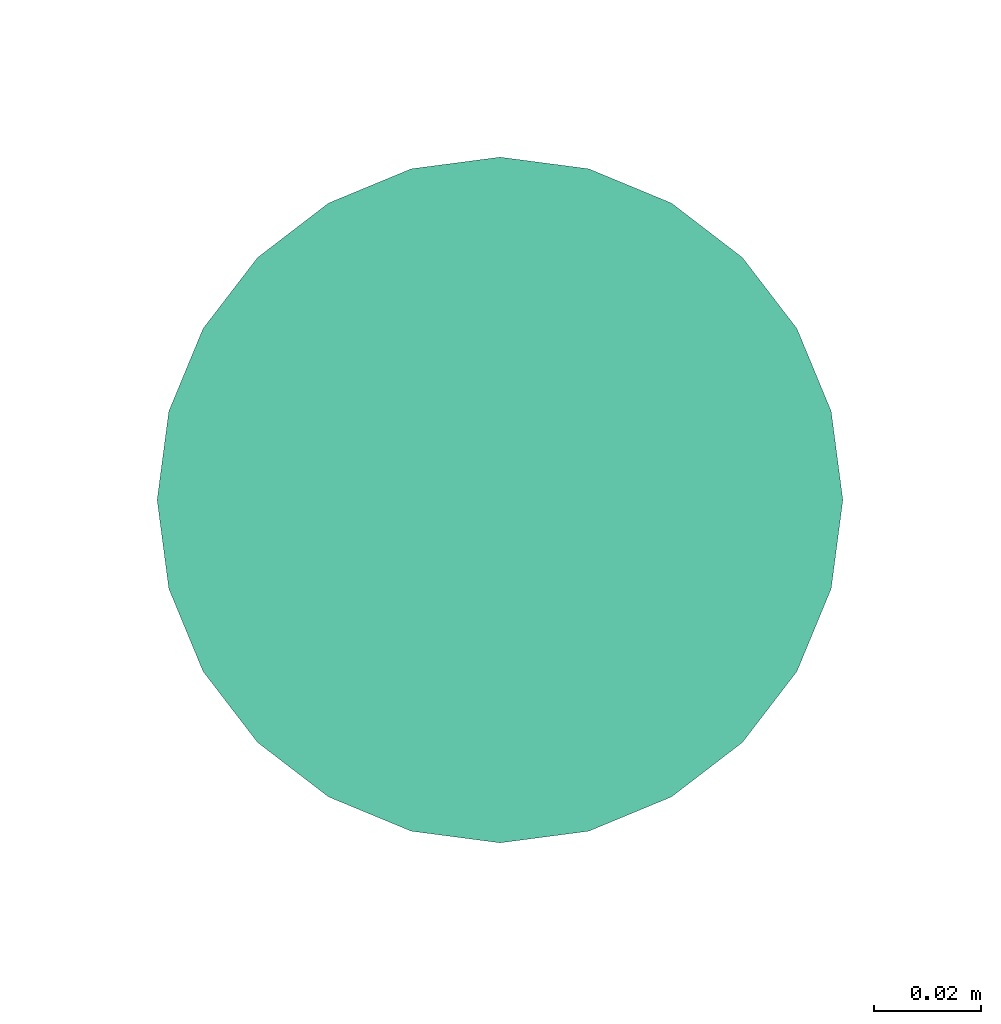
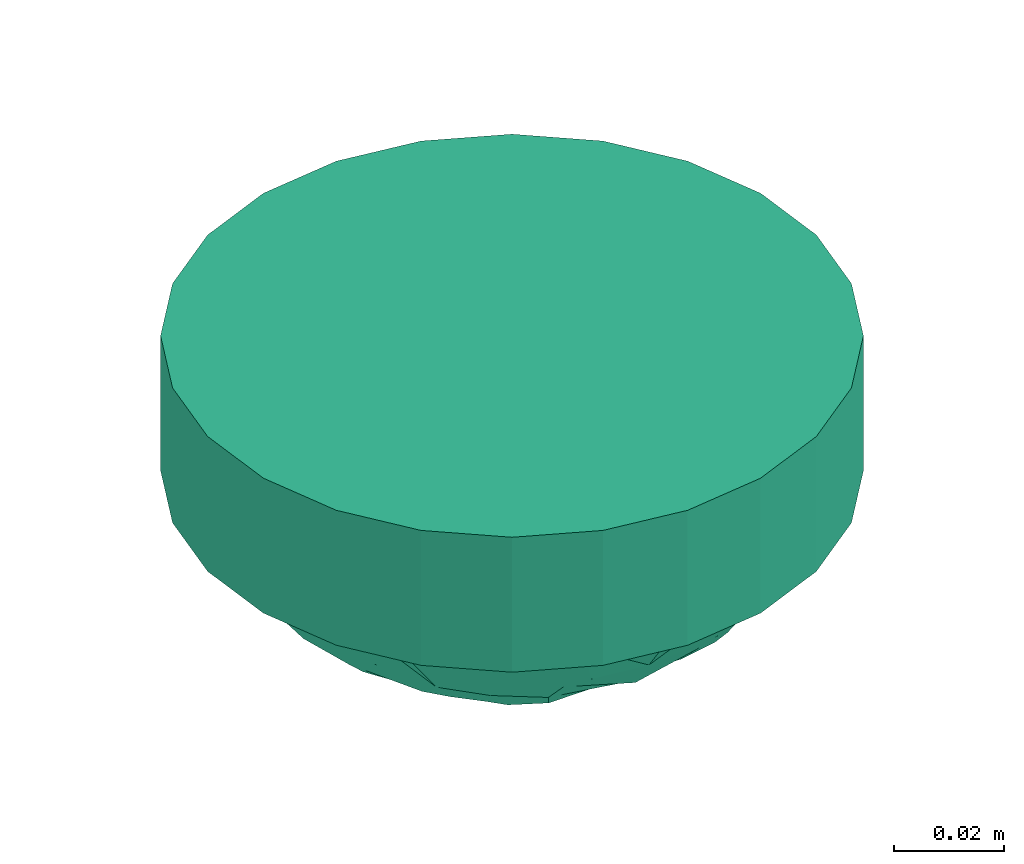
# One storey, part 61 of 146: 1 flow terminal.
"""IFC2X3 building model written with IfcOpenShell, lengths in metres."""

import ifcopenshell
import ifcopenshell.guid

model = None  # the IFC model being written
_history = None  # IfcOwnerHistory: only IFC2X3 demands one
_inside = {}  # id of a spatial element -> (the spatial element, [elements in it])
_under = {}  # id of a project, library or spatial element -> (it, [spatial elements below it])
_declared = {}  # id of a project -> (the project, [libraries it declares])
_typed = {}  # id of a type object -> (the type object, [elements of that type])
_made_of = {}  # id of a material, layer set ... -> (it, [elements and type objects made of it])


def new_model(schema):
    """Start an empty IFC model of exactly this schema.

    Asked for "IFC4X3", IfcOpenShell would pick the latest addendum, in which some entities
    have other attributes; the version numbers below select the first issue.
    IFC2X3 requires an IfcOwnerHistory on every rooted entity: one is made here for all.
    """
    global model, _history
    if schema == "IFC4X3":
        model = ifcopenshell.file(schema_version=(4, 3, 0, 0))
    else:
        model = ifcopenshell.file(schema=schema)
    _inside.clear()
    _under.clear()
    _declared.clear()
    _typed.clear()
    _made_of.clear()
    _history = None
    if model.schema == "IFC2X3":
        org = make("IfcOrganization", Name="unknown")
        user = make(
            "IfcPersonAndOrganization",
            ThePerson=make("IfcPerson", FamilyName="unknown"),
            TheOrganization=org,
        )
        app = make(
            "IfcApplication",
            ApplicationDeveloper=org,
            Version="unknown",
            ApplicationFullName="unknown",
            ApplicationIdentifier="unknown",
        )
        _history = make(
            "IfcOwnerHistory",
            OwningUser=user,
            OwningApplication=app,
            ChangeAction="ADDED",
            CreationDate=0,
        )
    return model


def make(cls, **values):
    """One entity of the class cls with the attributes given. An attribute that is None is left unset."""
    return model.create_entity(
        cls, **{name: value for name, value in values.items() if value is not None}
    )


def entity(cls, *values):
    """Any entity or typed value of the class cls, its attributes in the order of the schema. None: left unset."""
    e = model.create_entity(cls)
    for i, value in enumerate(values):
        if value is not None:
            e[i] = value
    return e


def rooted(cls, **values):
    """An entity with a GlobalId (a new one), such as an element, a storey or a relation."""
    return make(cls, GlobalId=ifcopenshell.guid.new(), OwnerHistory=_history, **values)


def si_unit(unit_type, name, prefix=None):
    """IfcSIUnit, for example si_unit("LENGTHUNIT", "METRE", prefix="MILLI")."""
    return make("IfcSIUnit", UnitType=unit_type, Prefix=prefix, Name=name)


def converted_unit(unit_type, name, factor, base, dimensions=None, offset=None):
    """IfcConversionBasedUnit, such as the inch: factor (a typed value) times the base unit."""
    return make(
        "IfcConversionBasedUnit"
        if offset is None
        else "IfcConversionBasedUnitWithOffset",
        ConversionOffset=offset,
        Dimensions=None
        if dimensions is None
        else entity("IfcDimensionalExponents", *dimensions),
        UnitType=unit_type,
        Name=name,
        ConversionFactor=make(
            "IfcMeasureWithUnit", ValueComponent=factor, UnitComponent=base
        ),
    )


def derived_unit(unit_type, elements):
    """IfcDerivedUnit: a product of units, each with its exponent."""
    return make(
        "IfcDerivedUnit",
        Elements=[
            make("IfcDerivedUnitElement", Unit=unit, Exponent=power)
            for unit, power in elements
        ],
        UnitType=unit_type,
    )


def assignment(units):
    """IfcUnitAssignment: the units of a project."""
    return None if units is None else make("IfcUnitAssignment", Units=units)


def point(xyz):
    """IfcCartesianPoint."""
    return None if xyz is None else make("IfcCartesianPoint", Coordinates=xyz)


def direction(xyz):
    """IfcDirection."""
    return None if xyz is None else make("IfcDirection", DirectionRatios=xyz)


def frame(location, z_axis=None, x_axis=None):
    """IfcAxis2Placement3D, a coordinate frame: its origin and axes. An axis left out is left unset."""
    return make(
        "IfcAxis2Placement3D",
        Location=point(location),
        Axis=direction(z_axis),
        RefDirection=direction(x_axis),
    )


def origin():
    """The frame at (0, 0, 0) with its axes left unset."""
    return frame((0.0, 0.0, 0.0))


def place(relative_to, where):
    """IfcLocalPlacement: puts the frame where relative to a parent placement (None: the world)."""
    return make(
        "IfcLocalPlacement", PlacementRelTo=relative_to, RelativePlacement=where
    )


def context(
    kind, dimensions, precision=None, world=None, true_north=None, identifier=None
):
    """IfcGeometricRepresentationContext, for example the 3D "Model" context."""
    return make(
        "IfcGeometricRepresentationContext",
        ContextIdentifier=identifier,
        ContextType=kind,
        CoordinateSpaceDimension=dimensions,
        Precision=precision,
        WorldCoordinateSystem=world,
        TrueNorth=true_north,
    )


def subcontext(parent, identifier, kind, view, scale=None):
    """IfcGeometricRepresentationSubContext, for example "Body" below "Model"."""
    return make(
        "IfcGeometricRepresentationSubContext",
        ContextIdentifier=identifier,
        ContextType=kind,
        ParentContext=parent,
        TargetScale=scale,
        TargetView=view,
    )


def project(units=None, contexts=None):
    """IfcProject with its units and contexts."""
    return rooted(
        "IfcProject",
        Name="project",
        RepresentationContexts=contexts,
        UnitsInContext=assignment(units),
    )


def spatial(cls, under=None, at=None, **own):
    """A site, building, storey or space (cls), placed at a placement, below another one or the project."""
    s = rooted(cls, ObjectPlacement=at, **own)
    if under is not None:
        _under.setdefault(under.id(), (under, []))[1].append(s)
    return s


def faces_of(points, faces, orient=None, outer=None):
    """IfcFace entities. A face is a list of loops; a loop is a list of indices into points, from 0.

    orient and outer hold one flag for each loop. By default every Orientation is true, the
    first loop of a face is its IfcFaceOuterBound and the others are IfcFaceBound.
    """
    made = []
    for i, loops in enumerate(faces):
        bounds = []
        for j, loop in enumerate(loops):
            is_outer = j == 0 if outer is None else outer[i][j]
            bounds.append(
                make(
                    "IfcFaceOuterBound" if is_outer else "IfcFaceBound",
                    Bound=make("IfcPolyLoop", Polygon=[points[k] for k in loop]),
                    Orientation=True if orient is None else orient[i][j],
                )
            )
        made.append(make("IfcFace", Bounds=bounds))
    return made


def faceted_brep(points, faces, orient=None, outer=None, voids=None):
    """IfcFacetedBrep: a solid bounded by flat faces; with voids (closed shells), ...WithVoids."""
    shared = [point(p) for p in points]
    hull = make("IfcClosedShell", CfsFaces=faces_of(shared, faces, orient, outer))
    if voids is None:
        return make("IfcFacetedBrep", Outer=hull)
    return make(
        "IfcFacetedBrepWithVoids",
        Outer=hull,
        Voids=[
            make(cls, CfsFaces=faces_of(shared, fs, o, b)) for cls, fs, o, b in voids
        ],
    )


def shape(context_of_items, identifier, shape_type, items):
    """IfcShapeRepresentation: the items that make up one representation, for example the "Body"."""
    return make(
        "IfcShapeRepresentation",
        ContextOfItems=context_of_items,
        RepresentationIdentifier=identifier,
        RepresentationType=shape_type,
        Items=items,
    )


def source(mapping_origin, context_of_items, identifier, shape_type, items):
    """IfcRepresentationMap: a shape defined once, which mapped items show again and again."""
    return make(
        "IfcRepresentationMap",
        MappingOrigin=mapping_origin,
        MappedRepresentation=shape(context_of_items, identifier, shape_type, items),
    )


def transform(
    local_origin,
    x_axis=None,
    y_axis=None,
    z_axis=None,
    scale=None,
    scale2=None,
    scale3=None,
    uniform=True,
):
    """IfcCartesianTransformationOperator3D, or its non-uniform kind. x_axis, y_axis, z_axis: its Axis1, 2, 3."""
    if uniform:
        return make(
            "IfcCartesianTransformationOperator3D",
            Axis1=direction(x_axis),
            Axis2=direction(y_axis),
            LocalOrigin=point(local_origin),
            Scale=scale,
            Axis3=direction(z_axis),
        )
    return make(
        "IfcCartesianTransformationOperator3DnonUniform",
        Axis1=direction(x_axis),
        Axis2=direction(y_axis),
        LocalOrigin=point(local_origin),
        Scale=scale,
        Axis3=direction(z_axis),
        Scale2=scale2,
        Scale3=scale3,
    )


def mapped(mapping_source, mapping_target):
    """IfcMappedItem: shows the shape of a source again, moved by a transform."""
    return make(
        "IfcMappedItem", MappingSource=mapping_source, MappingTarget=mapping_target
    )


def made_of(thing, what):
    """Note that an element or type object is made of a material, layer set ...; save() writes the relation."""
    if what is not None:
        _made_of.setdefault(what.id(), (what, []))[1].append(thing)
    return thing


def type_object(cls, material=None, **own):
    """A type object (cls), such as IfcWallType, which elements share."""
    return made_of(rooted(cls, **own), material)


def type_shapes(of_type, sources):
    """Give a type object the sources (RepresentationMaps) that its elements show as mapped items."""
    of_type.RepresentationMaps = sources


def element(
    cls,
    number,
    at=None,
    inside=None,
    cuts=None,
    type_object=None,
    material=None,
    context=None,
    identifier="Body",
    shape_type=None,
    held_by="IfcProductDefinitionShape",
    body=None,
    shapes=None,
    **own,
):
    """One element of the class cls, such as IfcWall. Its Tag is "e" and its number.

    at: its placement. inside: the storey or other place that contains it. cuts: it is an
    opening in that element (IfcRelVoidsElement). A single representation is given by context,
    identifier, shape_type and body (its items); several are given by shapes. held_by: the class
    of the entity that holds the representations. save() writes the other relations.
    """
    e = rooted(cls, Tag="e%d" % number, ObjectPlacement=at, **own)
    if body is not None:
        shapes = [shape(context, identifier, shape_type, body)]
    if shapes is not None:
        e.Representation = make(held_by, Representations=shapes)
    if inside is not None:
        _inside.setdefault(inside.id(), (inside, []))[1].append(e)
    if cuts is not None:
        rooted(
            "IfcRelVoidsElement", RelatingBuildingElement=cuts, RelatedOpeningElement=e
        )
    if type_object is not None:
        _typed.setdefault(type_object.id(), (type_object, []))[1].append(e)
    return made_of(e, material)


def aggregate(whole, parts):
    """IfcRelAggregates: a whole, such as a stair, and the parts it consists of."""
    return rooted("IfcRelAggregates", RelatingObject=whole, RelatedObjects=parts)


def save(model, path):
    """Write the relations noted so far, then the file.

    IfcRelAggregates (storeys below a building ...), IfcRelContainedInSpatialStructure (elements
    in a storey), IfcRelDefinesByType, IfcRelAssociatesMaterial and IfcRelDeclares: one each for
    every whole, place, type object, material and project.
    """
    for whole, parts in _under.values():
        aggregate(whole, parts)
    for where, things in _inside.values():
        rooted(
            "IfcRelContainedInSpatialStructure",
            RelatedElements=things,
            RelatingStructure=where,
        )
    for kind, things in _typed.values():
        rooted("IfcRelDefinesByType", RelatedObjects=things, RelatingType=kind)
    for what, things in _made_of.values():
        rooted("IfcRelAssociatesMaterial", RelatedObjects=things, RelatingMaterial=what)
    for by, libraries in _declared.values():
        rooted("IfcRelDeclares", RelatingContext=by, RelatedDefinitions=libraries)
    model.write(path)


model = new_model("IFC2X3")

# Units and contexts
model_context = context("Model", 3, precision=1e-05, world=origin(), true_north=direction((6.12303176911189e-17, 1.0)))
body_context = subcontext(model_context, "Body", "Model", "MODEL_VIEW")
ifc_project = project(units=[si_unit("LENGTHUNIT", "METRE"), si_unit("AREAUNIT", "SQUARE_METRE"), si_unit("VOLUMEUNIT", "CUBIC_METRE"), converted_unit("PLANEANGLEUNIT", "DEGREE", entity("IfcRatioMeasure", 0.0174532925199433), si_unit("PLANEANGLEUNIT", "RADIAN"), dimensions=[0, 0, 0, 0, 0, 0, 0]), si_unit("MASSUNIT", "GRAM", prefix="KILO"), derived_unit("MASSDENSITYUNIT", [(si_unit("MASSUNIT", "GRAM", prefix="KILO"), 1), (si_unit("LENGTHUNIT", "METRE"), -3)]), si_unit("TIMEUNIT", "SECOND"), si_unit("FREQUENCYUNIT", "HERTZ"), si_unit("THERMODYNAMICTEMPERATUREUNIT", "DEGREE_CELSIUS"), derived_unit("THERMALTRANSMITTANCEUNIT", [(si_unit("MASSUNIT", "GRAM", prefix="KILO"), 1), (si_unit("THERMODYNAMICTEMPERATUREUNIT", "KELVIN"), -1), (si_unit("TIMEUNIT", "SECOND"), -3)]), derived_unit("VOLUMETRICFLOWRATEUNIT", [(si_unit("LENGTHUNIT", "METRE"), 3), (si_unit("TIMEUNIT", "SECOND"), -1)]), si_unit("ELECTRICCURRENTUNIT", "AMPERE"), si_unit("ELECTRICVOLTAGEUNIT", "VOLT"), si_unit("POWERUNIT", "WATT"), si_unit("FORCEUNIT", "NEWTON"), si_unit("ILLUMINANCEUNIT", "LUX"), si_unit("LUMINOUSFLUXUNIT", "LUMEN"), si_unit("LUMINOUSINTENSITYUNIT", "CANDELA"), derived_unit("USERDEFINED", [(si_unit("MASSUNIT", "GRAM", prefix="KILO"), -1), (si_unit("LENGTHUNIT", "METRE"), -2), (si_unit("TIMEUNIT", "SECOND"), 3), (si_unit("LUMINOUSFLUXUNIT", "LUMEN"), 1)]), derived_unit("LINEARVELOCITYUNIT", [(si_unit("LENGTHUNIT", "METRE"), 1), (si_unit("TIMEUNIT", "SECOND"), -1)]), si_unit("PRESSUREUNIT", "PASCAL"), derived_unit("USERDEFINED", [(si_unit("LENGTHUNIT", "METRE"), -2), (si_unit("MASSUNIT", "GRAM", prefix="KILO"), 1), (si_unit("TIMEUNIT", "SECOND"), -2)])], contexts=[model_context])

# Site, building, storey
site_placement = place(None, origin())
site = spatial("IfcSite", under=ifc_project, at=site_placement, Name="Default", CompositionType="ELEMENT")
building_placement = place(site_placement, origin())
building = spatial("IfcBuilding", under=site, at=building_placement, CompositionType="ELEMENT")
storey_placement = place(building_placement, origin())
storey = spatial("IfcBuildingStorey", under=building, at=storey_placement, Name="S01", CompositionType="ELEMENT", Elevation=0.0)

# Flow terminal
light_fixture_type = type_object("IfcLightFixtureType", Name="Détecteur 360°", PredefinedType="NOTDEFINED")
shared_shape = source(origin(), body_context, "Body", "Brep", [
    faceted_brep([(0.0, -0.0397165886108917, 0.0531256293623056), (0.0, -0.034524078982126, 0.0563702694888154), (-0.0175153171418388, -0.0435914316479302, 0.0478512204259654), (-0.0194029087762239, -0.000878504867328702, 0.0644483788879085), (0.0, 0.0, 0.0669999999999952), (0.0, 0.00603476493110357, 0.0659648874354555), (-0.0174057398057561, -0.0159851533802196, 0.0630502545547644), (-0.0366619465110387, -0.0127227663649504, 0.0549213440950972), (-0.026998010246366, -0.0195753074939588, 0.0584711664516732), (-0.0202403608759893, -0.0335607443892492, 0.054639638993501), (-0.0359767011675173, -0.0348394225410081, 0.0444249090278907), (-0.0276843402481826, -0.0401006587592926, 0.0459804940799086), (-0.0133088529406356, -0.0517577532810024, 0.0400582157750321), (-0.0172617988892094, -0.0486391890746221, 0.042533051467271), (-0.0256912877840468, -0.0533485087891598, 0.0299999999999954), (-0.0462941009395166, -0.0369183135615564, 0.0299999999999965), (0.0, -0.0241390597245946, 0.0628595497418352), (-0.0186245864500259, -0.0267295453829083, 0.0589100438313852), (-0.0139070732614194, -0.0374370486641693, 0.0540817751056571), (0.0, 0.0449090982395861, 0.049880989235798), (-0.0172618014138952, 0.0486391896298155, 0.0425330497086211), (0.0, 0.0397165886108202, 0.0531256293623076), (-0.0186245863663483, 0.0267295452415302, 0.0589100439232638), (-0.0202403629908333, 0.0335607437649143, 0.054639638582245), (-0.0353547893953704, 0.0284533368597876, 0.0494330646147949), (0.0, 0.0120695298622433, 0.0649297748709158), (-0.0249385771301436, 0.0204731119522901, 0.0590841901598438), (-0.0191783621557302, 0.0150189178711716, 0.062775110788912), (-0.0465404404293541, -0.0196510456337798, 0.0438984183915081), (-0.052010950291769, -0.0250471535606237, 0.029999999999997), (-0.0453471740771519, -0.0286501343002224, 0.0397747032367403), (-0.0365036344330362, -0.0226255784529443, 0.0516441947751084), (-0.0175153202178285, 0.0435914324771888, 0.0478512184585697), (-0.0359926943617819, 0.0451334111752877, 0.0299999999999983), (-0.0276843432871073, 0.0401006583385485, 0.0459804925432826), (-0.00849704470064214, -0.0572729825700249, 0.0299999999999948), (0.0, -0.0592123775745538, 0.0299999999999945), (0.0, -0.0545512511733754, 0.0364787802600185), (0.0, -0.049890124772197, 0.0429575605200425), (-0.0169940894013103, -0.055333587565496, 0.0299999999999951), (-0.0359767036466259, 0.0348394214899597, 0.0444249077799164), (-0.025691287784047, 0.0533485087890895, 0.0299999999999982), (-0.0308419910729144, 0.0492409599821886, 0.0299999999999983), (-0.0130265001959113, 0.0514867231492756, 0.040526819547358), (-0.0169940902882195, 0.0553335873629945, 0.029999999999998), (0.0, 0.0498901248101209, 0.0429575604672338), (-0.0353547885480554, -0.0284533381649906, 0.0494330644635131), (0.0, 0.0181042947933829, 0.0638946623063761), (-0.0473669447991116, -0.00128092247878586, 0.0474310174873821), (-0.0485435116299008, -0.00908961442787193, 0.0452357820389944), (-0.0366597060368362, -0.0032867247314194, 0.0563153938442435), (-0.0226425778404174, -0.0107553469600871, 0.0624973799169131), (0.0, -0.00603476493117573, 0.0659648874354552), (0.0, 0.0293315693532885, 0.0596149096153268), (-0.0139070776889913, 0.0374370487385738, 0.0540817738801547), (-0.0449600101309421, 0.018422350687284, 0.0461366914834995), (-0.0453471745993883, 0.0286501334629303, 0.0397747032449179), (-0.0476906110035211, 0.00670602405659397, 0.0466053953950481), (-0.0577277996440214, 0.0131759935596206, 0.0299999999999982), (-0.0577277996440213, 0.00658799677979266, 0.029999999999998), (-0.0577277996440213, 0.0, 0.0299999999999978), (0.0, -0.0449090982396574, 0.0498809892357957), (-0.0308419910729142, -0.049240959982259, 0.0299999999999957), (-0.0359926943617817, -0.0451334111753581, 0.029999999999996), (0.0, 0.0345240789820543, 0.0563702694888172), (-0.0411433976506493, 0.0410258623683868, 0.0299999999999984), (-0.0462941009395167, 0.0369183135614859, 0.0299999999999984), (-0.0491525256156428, -0.03098273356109, 0.0299999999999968), (-0.0577277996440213, -0.0131759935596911, 0.0299999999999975), (0.0, -0.018104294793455, 0.0638946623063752), (-0.0377433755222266, 0.0044838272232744, 0.0554913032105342), (-0.0577277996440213, -0.00658799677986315, 0.0299999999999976), (-0.0385149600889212, 0.0124844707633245, 0.0536578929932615), (-0.0491525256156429, 0.0309827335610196, 0.0299999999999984), (-0.0548693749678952, 0.0191115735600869, 0.0299999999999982), (0.0, 0.0241390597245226, 0.0628595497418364), (-0.014625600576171, 0.0100436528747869, 0.0649170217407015), (-0.0271766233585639, 0.00920278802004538, 0.0609170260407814), (0.0, -0.0120695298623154, 0.0649297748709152), (-0.0520109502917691, 0.0250471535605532, 0.0299999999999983), (-0.0411433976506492, -0.0410258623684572, 0.0299999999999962), (-0.0548693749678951, -0.0191115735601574, 0.0299999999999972), (0.0, -0.0293315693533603, 0.0596149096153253), (0.0, 0.0545512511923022, 0.0364787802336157), (0.0, 0.0592123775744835, 0.0299999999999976), (-0.00849704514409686, 0.057272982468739, 0.0299999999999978), (-0.0127455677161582, 0.0563032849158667, 0.0299999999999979), (-0.0213426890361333, 0.054341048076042, 0.0299999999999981), (0.0175153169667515, 0.0435914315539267, 0.0478512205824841), (0.0194029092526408, 0.000878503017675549, 0.0644483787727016), (0.017405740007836, 0.0159851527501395, 0.0630502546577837), (0.0366619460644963, 0.012722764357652, 0.0549213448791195), (0.0269980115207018, 0.0195753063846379, 0.0584711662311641), (0.0202403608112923, 0.0335607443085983, 0.0546396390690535), (0.0359767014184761, 0.0348394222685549, 0.0444249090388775), (0.0276843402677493, 0.0401006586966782, 0.0459804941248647), (0.0133088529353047, 0.0517577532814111, 0.0400582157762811), (0.0172617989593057, 0.0486391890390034, 0.0425330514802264), (0.0256912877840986, 0.0533485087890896, 0.0299999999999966), (0.0462941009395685, 0.0369183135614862, 0.0299999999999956), (0.00849704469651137, 0.0572729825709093, 0.0299999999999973), (0.0169940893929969, 0.0553335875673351, 0.029999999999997), (0.0172617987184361, -0.0486391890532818, 0.0425330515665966), (0.025691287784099, -0.0533485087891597, 0.0299999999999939), (0.0308419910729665, -0.0492409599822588, 0.0299999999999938), (0.0175153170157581, -0.0435914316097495, 0.0478512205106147), (0.0186245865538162, -0.0267295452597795, 0.0589100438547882), (0.0202403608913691, -0.03356074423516, 0.0546396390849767), (0.0353547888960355, -0.0284533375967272, 0.0494330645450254), (0.0249385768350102, -0.0204731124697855, 0.0590841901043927), (0.0191783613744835, -0.0150189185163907, 0.062775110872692), (0.0465404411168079, 0.0196510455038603, 0.0438984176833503), (0.0577277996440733, 0.0131759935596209, 0.0299999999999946), (0.0548693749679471, 0.0191115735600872, 0.0299999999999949), (0.0520109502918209, 0.0250471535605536, 0.0299999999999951), (0.0365036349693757, 0.0226255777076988, 0.0516441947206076), (0.0186245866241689, 0.0267295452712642, 0.0589100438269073), (0.0359926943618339, -0.0451334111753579, 0.0299999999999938), (0.0276843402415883, -0.0401006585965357, 0.0459804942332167), (0.0139070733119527, 0.0374370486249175, 0.0540817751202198), (0.0359767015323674, -0.0348394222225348, 0.044424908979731), (0.0226425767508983, 0.0107553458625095, 0.0624973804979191), (0.0169940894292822, -0.0553335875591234, 0.0299999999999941), (0.0130264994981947, -0.0514867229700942, 0.0405268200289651), (0.0453471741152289, 0.0286501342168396, 0.039774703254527), (0.0353547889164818, 0.0284533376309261, 0.0494330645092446), (0.0473669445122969, 0.00128092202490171, 0.0474310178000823), (0.0485435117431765, 0.00908961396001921, 0.0452357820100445), (0.0366597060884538, 0.00328672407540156, 0.0563153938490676), (0.0139070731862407, -0.0374370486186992, 0.0540817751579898), (0.0449600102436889, -0.018422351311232, 0.0461366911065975), (0.0453471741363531, -0.0286501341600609, 0.039774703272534), (0.0476906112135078, -0.00670602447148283, 0.046605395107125), (0.0577277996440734, -0.0131759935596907, 0.0299999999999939), (0.0577277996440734, -0.00658799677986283, 0.0299999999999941), (0.0577277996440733, 0.0, 0.0299999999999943), (0.0308419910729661, 0.0492409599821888, 0.0299999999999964), (0.0359926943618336, 0.0451334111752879, 0.0299999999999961), (0.0411433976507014, -0.041025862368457, 0.0299999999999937), (0.0462941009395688, -0.0369183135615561, 0.0299999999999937), (0.0491525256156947, 0.0309827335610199, 0.0299999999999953), (0.037743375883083, -0.00448382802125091, 0.0554913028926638), (0.0577277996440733, 0.00658799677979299, 0.0299999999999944), (0.0385149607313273, -0.0124844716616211, 0.0536578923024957), (0.049152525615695, -0.0309827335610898, 0.0299999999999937), (0.0548693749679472, -0.0191115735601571, 0.0299999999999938), (0.0146256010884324, -0.0100436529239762, 0.0649170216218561), (0.0271766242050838, -0.00920278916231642, 0.0609170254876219), (0.0520109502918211, -0.0250471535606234, 0.0299999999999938), (0.041143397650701, 0.0410258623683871, 0.0299999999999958), (0.00849704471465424, -0.0572729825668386, 0.0299999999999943), (0.0127455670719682, -0.056303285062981, 0.0299999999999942), (0.0213426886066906, -0.0543410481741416, 0.029999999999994), (0.0, 0.0, 0.0299999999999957)], [[[0, 1, 2]], [[3, 4, 5]], [[6, 7, 8]], [[9, 10, 11]], [[12, 13, 14]], [[10, 15, 11]], [[9, 16, 17]], [[18, 9, 11]], [[19, 20, 21]], [[22, 23, 24]], [[25, 26, 27]], [[28, 29, 30]], [[8, 31, 17]], [[32, 33, 34]], [[35, 36, 37, 38, 39]], [[23, 40, 24]], [[20, 41, 42]], [[19, 43, 20]], [[44, 43, 45]], [[20, 32, 21]], [[30, 10, 46]], [[22, 26, 47]], [[48, 49, 50]], [[3, 51, 52]], [[53, 54, 23]], [[55, 24, 56]], [[57, 58, 59, 60]], [[13, 61, 0]], [[13, 0, 2]], [[2, 62, 13]], [[18, 2, 1]], [[2, 11, 63]], [[32, 64, 21]], [[32, 42, 33]], [[34, 33, 65, 66]], [[20, 42, 32]], [[54, 32, 34]], [[28, 30, 31]], [[10, 67, 15]], [[49, 68, 28]], [[8, 17, 69]], [[7, 6, 51]], [[28, 31, 7]], [[57, 48, 70]], [[58, 57, 55]], [[48, 71, 49]], [[70, 48, 50]], [[3, 50, 51]], [[55, 26, 24]], [[72, 57, 70]], [[26, 55, 72]], [[56, 40, 73]], [[56, 74, 55]], [[47, 75, 22]], [[52, 4, 3]], [[7, 50, 49]], [[5, 76, 3]], [[70, 3, 77]], [[51, 78, 52]], [[26, 25, 47]], [[76, 25, 27]], [[23, 22, 75]], [[26, 22, 24]], [[53, 64, 54]], [[23, 34, 40]], [[66, 40, 34]], [[40, 66, 73]], [[56, 73, 79, 74]], [[72, 27, 26]], [[40, 56, 24]], [[23, 75, 53]], [[69, 17, 16]], [[78, 6, 69]], [[46, 10, 9]], [[46, 9, 17]], [[50, 7, 51]], [[30, 29, 67]], [[80, 63, 11, 15]], [[28, 68, 81, 29]], [[10, 30, 67]], [[30, 46, 31]], [[82, 18, 1]], [[82, 16, 9]], [[28, 7, 49]], [[12, 39, 38]], [[61, 13, 12]], [[83, 84, 85, 86, 44, 45]], [[43, 41, 20]], [[44, 87, 41, 43]], [[32, 54, 64]], [[23, 54, 34]], [[9, 18, 82]], [[2, 18, 11]], [[39, 12, 14]], [[38, 61, 12]], [[62, 2, 63]], [[62, 14, 13]], [[17, 31, 46]], [[7, 31, 8]], [[48, 60, 71]], [[71, 68, 49]], [[60, 48, 57]], [[3, 70, 50]], [[72, 70, 77]], [[72, 77, 27]], [[55, 57, 72]], [[74, 58, 55]], [[76, 27, 77]], [[3, 76, 77]], [[25, 76, 5]], [[69, 6, 8]], [[78, 51, 6]], [[45, 43, 19]], [[21, 64, 88]], [[89, 4, 52]], [[90, 91, 92]], [[93, 94, 95]], [[96, 97, 98]], [[94, 99, 95]], [[100, 84, 83, 45, 101]], [[102, 103, 104]], [[102, 105, 0]], [[106, 107, 108]], [[78, 109, 110]], [[111, 112, 113, 114]], [[92, 115, 116]], [[105, 117, 118]], [[119, 93, 95]], [[107, 120, 108]], [[89, 121, 5]], [[122, 123, 38]], [[61, 123, 102]], [[93, 75, 116]], [[124, 94, 125]], [[106, 109, 69]], [[126, 127, 128]], [[61, 102, 0]], [[82, 129, 107]], [[130, 108, 131]], [[132, 133, 134, 135]], [[97, 19, 21]], [[97, 21, 88]], [[88, 136, 97]], [[119, 88, 64]], [[88, 95, 137]], [[105, 1, 0]], [[105, 104, 117]], [[118, 117, 138, 139]], [[102, 104, 105]], [[129, 105, 118]], [[111, 124, 115]], [[94, 140, 99]], [[127, 112, 111]], [[92, 116, 47]], [[91, 90, 121]], [[111, 115, 91]], [[132, 126, 141]], [[133, 132, 130]], [[126, 142, 127]], [[141, 126, 128]], [[89, 128, 121]], [[130, 109, 108]], [[143, 132, 141]], [[109, 130, 143]], [[131, 120, 144]], [[131, 145, 130]], [[69, 16, 106]], [[5, 4, 89]], [[91, 128, 127]], [[52, 146, 89]], [[141, 89, 147]], [[121, 25, 5]], [[109, 78, 69]], [[146, 78, 110]], [[107, 106, 16]], [[109, 106, 108]], [[82, 1, 129]], [[107, 118, 120]], [[139, 120, 118]], [[120, 139, 144]], [[131, 144, 148, 145]], [[143, 110, 109]], [[120, 131, 108]], [[107, 16, 82]], [[47, 116, 75]], [[25, 90, 47]], [[125, 94, 93]], [[125, 93, 116]], [[128, 91, 121]], [[124, 114, 140]], [[149, 137, 95, 99]], [[111, 114, 124]], [[94, 124, 140]], [[124, 125, 115]], [[53, 119, 64]], [[53, 75, 93]], [[111, 91, 127]], [[96, 101, 45]], [[19, 97, 96]], [[37, 36, 150, 151, 122, 38]], [[123, 103, 102]], [[122, 152, 103, 123]], [[105, 129, 1]], [[107, 129, 118]], [[93, 119, 53]], [[88, 119, 95]], [[101, 96, 98]], [[45, 19, 96]], [[136, 88, 137]], [[136, 98, 97]], [[116, 115, 125]], [[91, 115, 92]], [[126, 135, 142]], [[142, 112, 127]], [[135, 126, 132]], [[89, 141, 128]], [[143, 141, 147]], [[143, 147, 110]], [[130, 132, 143]], [[145, 133, 130]], [[146, 110, 147]], [[89, 146, 147]], [[78, 146, 52]], [[47, 90, 92]], [[25, 121, 90]], [[38, 123, 61]], [[153, 66, 65]], [[153, 65, 33]], [[153, 33, 42]], [[153, 42, 41]], [[153, 41, 87]], [[153, 73, 66]], [[153, 79, 73]], [[153, 74, 79]], [[153, 58, 74]], [[153, 87, 44]], [[153, 44, 86]], [[153, 86, 85]], [[153, 85, 84]], [[153, 84, 100]], [[153, 59, 58]], [[153, 60, 59]], [[153, 71, 60]], [[153, 68, 71]], [[153, 81, 68]], [[153, 29, 81]], [[153, 67, 29]], [[153, 15, 67]], [[153, 80, 15]], [[153, 63, 80]], [[153, 62, 63]], [[153, 14, 62]], [[153, 39, 14]], [[153, 35, 39]], [[153, 36, 35]], [[153, 100, 101]], [[153, 101, 98]], [[153, 98, 136]], [[153, 136, 137]], [[153, 137, 149]], [[153, 149, 99]], [[153, 99, 140]], [[153, 140, 114]], [[153, 114, 113]], [[153, 113, 112]], [[153, 112, 142]], [[153, 150, 36]], [[153, 151, 150]], [[153, 122, 151]], [[153, 152, 122]], [[153, 103, 152]], [[153, 104, 103]], [[153, 117, 104]], [[153, 138, 117]], [[153, 139, 138]], [[153, 144, 139]], [[153, 148, 144]], [[153, 145, 148]], [[153, 133, 145]], [[153, 142, 135]], [[153, 135, 134]], [[153, 134, 133]]]),
    faceted_brep([(0.0165644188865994, -0.0618192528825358, 0.029999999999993), (0.0320000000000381, -0.0554256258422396, 0.0299999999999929), (0.0452548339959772, -0.0452548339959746, 0.0299999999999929), (0.0554256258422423, -0.0320000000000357, 0.029999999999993), (0.0618192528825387, -0.016564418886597, 0.0299999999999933), (0.0640000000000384, 0.0, 0.0299999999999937), (0.0618192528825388, 0.016564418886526, 0.0299999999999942), (0.0554256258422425, 0.0319999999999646, 0.0299999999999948), (0.0452548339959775, 0.0452548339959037, 0.0299999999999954), (0.0320000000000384, 0.0554256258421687, 0.0299999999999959), (0.0165644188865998, 0.061819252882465, 0.0299999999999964), (0.0, 0.0639999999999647, 0.0299999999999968), (-0.0165644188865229, 0.061819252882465, 0.0299999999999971), (-0.0319999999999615, 0.0554256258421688, 0.0299999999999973), (-0.0452548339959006, 0.0452548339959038, 0.0299999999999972), (-0.0554256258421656, 0.0319999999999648, 0.0299999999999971), (-0.0618192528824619, 0.0165644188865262, 0.0299999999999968), (-0.0639999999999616, 0.0, 0.0299999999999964), (-0.061819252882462, -0.0165644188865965, 0.0299999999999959), (-0.0554256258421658, -0.0320000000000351, 0.0299999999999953), (-0.0452548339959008, -0.0452548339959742, 0.0299999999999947), (-0.0319999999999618, -0.0554256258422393, 0.0299999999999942), (-0.0165644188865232, -0.0618192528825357, 0.0299999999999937), (0.0, -0.0640000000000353, 0.0299999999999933), (0.0165644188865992, 0.0618192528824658, 0.0), (0.0320000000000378, 0.0554256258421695, 0.0), (0.0452548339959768, 0.0452548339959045, 0.0), (0.0554256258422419, 0.0319999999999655, 0.0), (0.0618192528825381, 0.0165644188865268, 0.0), (0.0640000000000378, 0.0, 0.0), (0.061819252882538, -0.0165644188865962, 0.0), (0.0554256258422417, -0.0320000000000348, 0.0), (0.0452548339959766, -0.0452548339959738, 0.0), (0.0320000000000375, -0.0554256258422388, 0.0), (0.0165644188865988, -0.061819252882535, 0.0), (0.0, -0.0640000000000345, 0.0), (-0.0165644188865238, -0.0618192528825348, 0.0), (-0.0319999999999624, -0.0554256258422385, 0.0), (-0.0452548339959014, -0.0452548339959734, 0.0), (-0.0554256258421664, -0.0320000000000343, 0.0), (-0.0618192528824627, -0.0165644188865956, 0.0), (-0.0639999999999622, 0.0, 0.0), (-0.0618192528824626, 0.016564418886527, 0.0), (-0.0554256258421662, 0.0319999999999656, 0.0), (-0.0452548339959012, 0.0452548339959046, 0.0), (-0.0319999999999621, 0.0554256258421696, 0.0), (-0.0165644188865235, 0.0618192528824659, 0.0), (0.0, 0.0639999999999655, 0.0)], [[[0, 1, 2, 3, 4, 5, 6, 7, 8, 9, 10, 11, 12, 13, 14, 15, 16, 17, 18, 19, 20, 21, 22, 23]], [[24, 25, 26, 27, 28, 29, 30, 31, 32, 33, 34, 35, 36, 37, 38, 39, 40, 41, 42, 43, 44, 45, 46, 47]], [[40, 18, 17, 41]], [[39, 19, 18, 40]], [[21, 20, 38, 37]], [[39, 38, 20, 19]], [[22, 21, 37, 36]], [[23, 22, 36, 35]], [[34, 0, 23, 35]], [[33, 1, 0, 34]], [[3, 2, 32, 31]], [[33, 32, 2, 1]], [[4, 3, 31, 30]], [[5, 4, 30, 29]], [[28, 6, 5, 29]], [[27, 7, 6, 28]], [[9, 8, 26, 25]], [[27, 26, 8, 7]], [[10, 9, 25, 24]], [[11, 10, 24, 47]], [[46, 12, 11, 47]], [[45, 13, 12, 46]], [[42, 41, 17, 16]], [[44, 14, 13, 45]], [[43, 15, 14, 44]], [[43, 42, 16, 15]]]),
])
type_shapes(light_fixture_type, [shared_shape])
flow_terminal_placement = place(storey_placement, frame((48.3447436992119, -186.140488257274, 3.37), z_axis=(0.0, 0.0, -1.0), x_axis=(1.0, 0.0, 0.0)))
element("IfcFlowTerminal", 1, at=flow_terminal_placement, inside=storey, type_object=light_fixture_type, Name="INT - Détecteur 360°:Détecteur 360°", ObjectType="INT - Détecteur 360°:Détecteur 360°", context=body_context, shape_type="MappedRepresentation", body=[
    mapped(shared_shape, transform((0.0, 0.0, 0.0), scale=1.0)),
])

save(model, "model.ifc")
